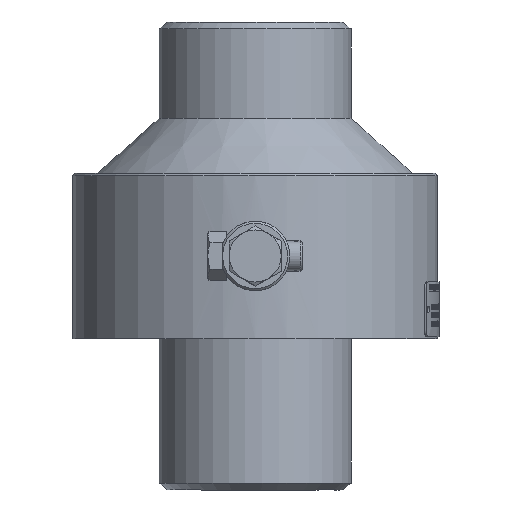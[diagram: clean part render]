
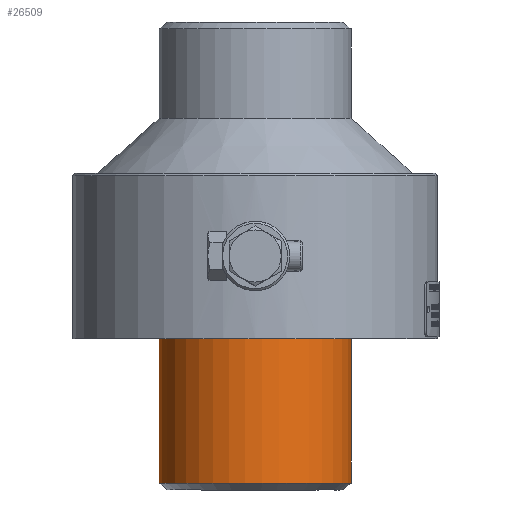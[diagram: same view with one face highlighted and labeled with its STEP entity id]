
A CAD part, left-side view. The second image highlights one B-rep face of the part: STEP entity #26509.
In plain terms, the highlighted cylindrical face has radius 44.45 mm (diameter 88.9 mm), a full revolution.
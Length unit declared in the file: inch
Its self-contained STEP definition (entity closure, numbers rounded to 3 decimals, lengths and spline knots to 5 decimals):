
#6621=CIRCLE('',#28097,1.75);
#6627=CIRCLE('',#28109,1.75);
#7349=FACE_BOUND('',#9132,.T.);
#7615=FACE_OUTER_BOUND('',#9131,.T.);
#9131=EDGE_LOOP('',(#18736));
#9132=EDGE_LOOP('',(#18737));
#12038=VERTEX_POINT('',#35363);
#12044=VERTEX_POINT('',#35381);
#14690=EDGE_CURVE('',#12038,#12038,#6621,.T.);
#14696=EDGE_CURVE('',#12044,#12044,#6627,.T.);
#18736=ORIENTED_EDGE('',*,*,#14690,.F.);
#18737=ORIENTED_EDGE('',*,*,#14696,.T.);
#26298=CYLINDRICAL_SURFACE('',#28110,1.75);
#26509=ADVANCED_FACE('',(#7615,#7349),#26298,.T.);
#28097=AXIS2_PLACEMENT_3D('',#35364,#29908,#29909);
#28109=AXIS2_PLACEMENT_3D('',#35382,#29932,#29933);
#28110=AXIS2_PLACEMENT_3D('',#35383,#29934,#29935);
#29908=DIRECTION('center_axis',(0.,-1.,0.));
#29909=DIRECTION('ref_axis',(1.,0.,0.));
#29932=DIRECTION('center_axis',(0.,-1.,0.));
#29933=DIRECTION('ref_axis',(1.,0.,0.));
#29934=DIRECTION('center_axis',(0.,-1.,0.));
#29935=DIRECTION('ref_axis',(1.,0.,0.));
#35363=CARTESIAN_POINT('',(1.75,3.21167,0.));
#35364=CARTESIAN_POINT('Origin',(0.,3.21167,0.));
#35381=CARTESIAN_POINT('',(1.75,5.87454,0.));
#35382=CARTESIAN_POINT('Origin',(0.,5.87454,0.));
#35383=CARTESIAN_POINT('Origin',(0.,4.5431,0.));
